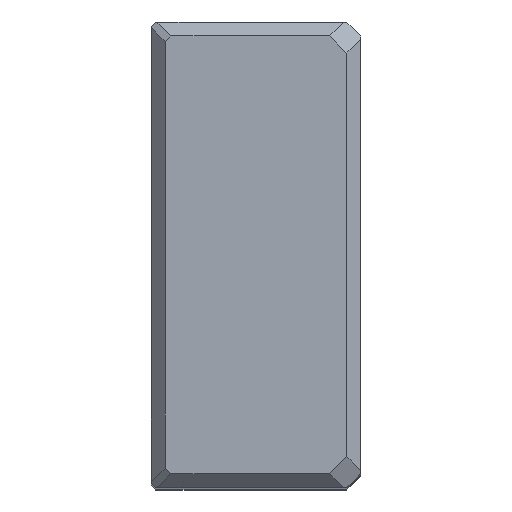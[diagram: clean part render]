
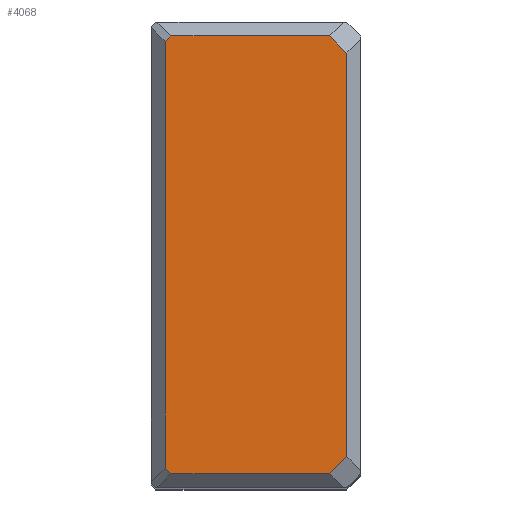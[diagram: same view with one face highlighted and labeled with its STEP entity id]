
A CAD part, top view. The second image highlights one B-rep face of the part: STEP entity #4068.
In plain terms, the highlighted planar face has unit normal (0, 0, 1).
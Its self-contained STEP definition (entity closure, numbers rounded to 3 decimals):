
#130=VERTEX_POINT(' ',#131);
#131=CARTESIAN_POINT('',(-3.,-43.326,0.));
#132=VERTEX_POINT(' ',#133);
#133=CARTESIAN_POINT('',(-6.674,-47.,0.));
#162=VERTEX_POINT(' ',#163);
#163=CARTESIAN_POINT('',(-3.,43.326,0.));
#170=VERTEX_POINT(' ',#171);
#171=CARTESIAN_POINT('',(-6.674,47.,0.));
#196=VERTEX_POINT(' ',#197);
#197=CARTESIAN_POINT('',(-40.775,-47.,0.));
#204=VERTEX_POINT(' ',#205);
#205=CARTESIAN_POINT('',(-42.,-45.775,0.));
#224=VERTEX_POINT(' ',#225);
#225=CARTESIAN_POINT('',(-42.,45.775,0.));
#228=VERTEX_POINT(' ',#229);
#229=CARTESIAN_POINT('',(-40.775,47.,0.));
#871=LINE('',#872,#873);
#872=CARTESIAN_POINT('',(20.163,-20.163,0.));
#873=VECTOR('',#874,1.);
#874=DIRECTION('',(0.707,0.707,0.));
#875=EDGE_CURVE(' ',#130,#132,#871,.F.);
#1001=LINE('',#1002,#1003);
#1002=CARTESIAN_POINT('',(-3.,-50.12,0.));
#1003=VECTOR('',#1004,1.);
#1004=DIRECTION('',(0.,1.,0.));
#1005=EDGE_CURVE(' ',#130,#162,#1001,.T.);
#1026=LINE('',#1027,#1028);
#1027=CARTESIAN_POINT('',(20.163,20.163,0.));
#1028=VECTOR('',#1029,1.);
#1029=DIRECTION('',(-0.707,0.707,0.));
#1030=EDGE_CURVE(' ',#170,#162,#1026,.F.);
#1171=LINE('',#1172,#1173);
#1172=CARTESIAN_POINT('',(-45.12,-47.,0.));
#1173=VECTOR('',#1174,1.);
#1174=DIRECTION('',(1.,0.,0.));
#1175=EDGE_CURVE(' ',#196,#132,#1171,.T.);
#1186=LINE('',#1187,#1188);
#1187=CARTESIAN_POINT('',(-43.888,-43.888,0.));
#1188=VECTOR('',#1189,1.);
#1189=DIRECTION('',(0.707,-0.707,0.));
#1190=EDGE_CURVE(' ',#196,#204,#1186,.F.);
#1283=LINE('',#1284,#1285);
#1284=CARTESIAN_POINT('',(-42.,-50.12,0.));
#1285=VECTOR('',#1286,1.);
#1286=DIRECTION('',(0.,1.,0.));
#1287=EDGE_CURVE(' ',#204,#224,#1283,.T.);
#1288=LINE('',#1289,#1290);
#1289=CARTESIAN_POINT('',(-43.888,43.888,0.));
#1290=VECTOR('',#1291,1.);
#1291=DIRECTION('',(-0.707,-0.707,0.));
#1292=EDGE_CURVE(' ',#224,#228,#1288,.F.);
#1293=LINE('',#1294,#1295);
#1294=CARTESIAN_POINT('',(-45.12,47.,0.));
#1295=VECTOR('',#1296,1.);
#1296=DIRECTION('',(1.,0.,0.));
#1297=EDGE_CURVE(' ',#170,#228,#1293,.F.);
#4053=ORIENTED_EDGE('',*,*,#1292,.F.);
#4054=ORIENTED_EDGE('',*,*,#1287,.F.);
#4055=ORIENTED_EDGE('',*,*,#1190,.F.);
#4056=ORIENTED_EDGE('',*,*,#1175,.T.);
#4057=ORIENTED_EDGE('',*,*,#875,.F.);
#4058=ORIENTED_EDGE('',*,*,#1005,.T.);
#4059=ORIENTED_EDGE('',*,*,#1030,.F.);
#4060=ORIENTED_EDGE('',*,*,#1297,.T.);
#4061=EDGE_LOOP('',(#4053,#4054,#4055,#4056,#4057,#4058,#4059,#4060));
#4062=FACE_OUTER_BOUND('',#4061,.T.);
#4063=PLANE('',#4064);
#4064=AXIS2_PLACEMENT_3D('',#4065,#4066,#4067);
#4065=CARTESIAN_POINT('',(-42.,0.,0.));
#4066=DIRECTION('',(0.,0.,1.));
#4067=DIRECTION('',(1.,0.,0.));
#4068=ADVANCED_FACE('',(#4062),#4063,.T.);
